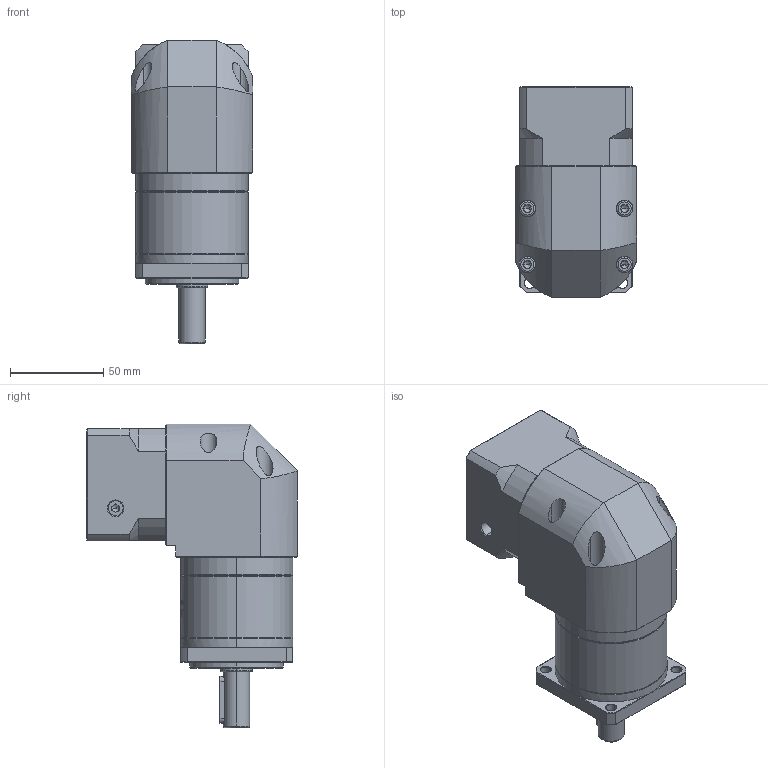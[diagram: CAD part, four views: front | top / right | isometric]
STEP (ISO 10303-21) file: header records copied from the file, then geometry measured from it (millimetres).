
FILE_DESCRIPTION (( 'STEP AP214' ), '1' );
FILE_NAME ('ZFR060-D14-L1-P2-11-50-70-M5.step', '2023-08-17T03:29:48', ( '' ), ( '' ), 'SwSTEP 2.0', 'SolidWorks 2016', '' );
FILE_SCHEMA (( 'AUTOMOTIVE_DESIGN' ));
Length unit declared in the file: millimetre
Products named in the file (1): ZFR060-D14-L1-P2-11-50-70-M5
Bounding box: 65 x 112.7 x 162.5 mm (x, y, z)
Volume: 537032.4 mm3; surface area: 78589.1 mm2
Topology: 5 solids, 6 shells, 1922 faces, 5153 edges, 3328 vertices
Faces by surface type: plane 847, cylinder 407, bspline 354, cone 288, torus 26
Entity records: 106544 total; most frequent: CARTESIAN_POINT 41474, ORIENTED_EDGE 10262, DIRECTION 7686, EDGE_CURVE 5131, VERTEX_POINT 3328, VECTOR 2612, LINE 2612, AXIS2_PLACEMENT_3D 2537
